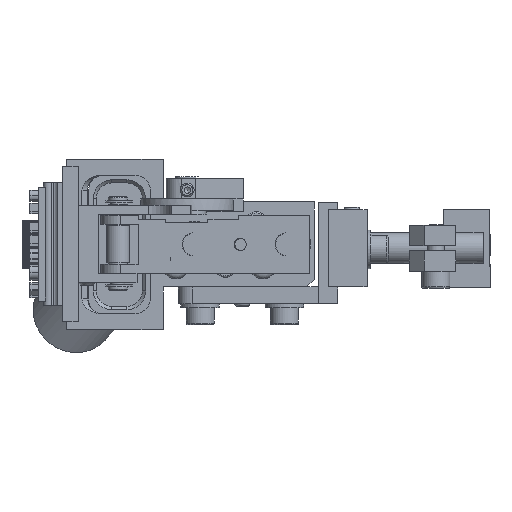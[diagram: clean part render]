
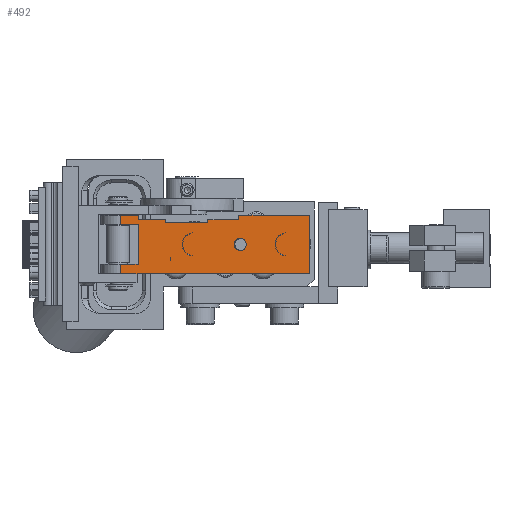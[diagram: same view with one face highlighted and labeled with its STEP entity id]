
A CAD part, front view. The second image highlights one B-rep face of the part: STEP entity #492.
In plain terms, the highlighted planar face has unit normal (0, -1, 0).
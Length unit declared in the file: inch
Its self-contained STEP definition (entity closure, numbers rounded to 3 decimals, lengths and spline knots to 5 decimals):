
#218=CARTESIAN_POINT('',(0.34758,-1.20831,-0.25));
#219=VERTEX_POINT('',#218);
#270=CARTESIAN_POINT('',(0.34758,-1.20831,-0.436));
#271=VERTEX_POINT('',#270);
#278=CARTESIAN_POINT('',(0.35943,-1.20831,-0.343));
#279=DIRECTION('',(0.0,-1.0,0.0));
#280=DIRECTION('',(-1.0,0.0,0.0));
#281=AXIS2_PLACEMENT_3D('',#278,#279,#280);
#282=CIRCLE('',#281,0.09375);
#283=EDGE_CURVE('',#219,#271,#282,.T.);
#308=CARTESIAN_POINT('',(0.54143,-1.20831,-0.579));
#309=DIRECTION('',(0.0,-1.0,0.0));
#310=DIRECTION('',(0.0,0.0,-1.0));
#311=AXIS2_PLACEMENT_3D('',#308,#309,#310);
#312=PLANE('',#311);
#313=CARTESIAN_POINT('',(-0.84357,-1.20831,-0.143));
#314=VERTEX_POINT('',#313);
#315=CARTESIAN_POINT('',(-0.84357,-1.20831,-0.106));
#316=VERTEX_POINT('',#315);
#317=CARTESIAN_POINT('',(-0.84357,-1.20831,-0.143));
#318=DIRECTION('',(0.0,0.0,1.0));
#319=VECTOR('',#318,0.037);
#320=LINE('',#317,#319);
#321=EDGE_CURVE('',#314,#316,#320,.T.);
#322=ORIENTED_EDGE('',*,*,#321,.T.);
#323=CARTESIAN_POINT('',(-0.98958,-1.20831,-0.106));
#324=VERTEX_POINT('',#323);
#325=CARTESIAN_POINT('',(-0.84357,-1.20831,-0.106));
#326=DIRECTION('',(-1.0,0.0,0.0));
#327=VECTOR('',#326,0.14601);
#328=LINE('',#325,#327);
#329=EDGE_CURVE('',#316,#324,#328,.T.);
#330=ORIENTED_EDGE('',*,*,#329,.T.);
#331=CARTESIAN_POINT('',(-0.98958,-1.20831,-0.18));
#332=VERTEX_POINT('',#331);
#333=CARTESIAN_POINT('',(-0.98958,-1.20831,-0.18));
#334=DIRECTION('',(0.0,0.0,1.0));
#335=VECTOR('',#334,0.074);
#336=LINE('',#333,#335);
#337=EDGE_CURVE('',#332,#324,#336,.T.);
#338=ORIENTED_EDGE('',*,*,#337,.F.);
#339=CARTESIAN_POINT('',(-0.84457,-1.20831,-0.18));
#340=VERTEX_POINT('',#339);
#341=CARTESIAN_POINT('',(-0.98958,-1.20831,-0.18));
#342=DIRECTION('',(1.0,0.0,0.0));
#343=VECTOR('',#342,0.14501);
#344=LINE('',#341,#343);
#345=EDGE_CURVE('',#332,#340,#344,.T.);
#346=ORIENTED_EDGE('',*,*,#345,.T.);
#347=CARTESIAN_POINT('',(-0.84457,-1.20831,-0.505));
#348=VERTEX_POINT('',#347);
#349=CARTESIAN_POINT('',(-0.84457,-1.20831,-0.18));
#350=DIRECTION('',(0.0,0.0,-1.0));
#351=VECTOR('',#350,0.325);
#352=LINE('',#349,#351);
#353=EDGE_CURVE('',#340,#348,#352,.T.);
#354=ORIENTED_EDGE('',*,*,#353,.T.);
#355=CARTESIAN_POINT('',(-0.98958,-1.20831,-0.505));
#356=VERTEX_POINT('',#355);
#357=CARTESIAN_POINT('',(-0.84457,-1.20831,-0.505));
#358=DIRECTION('',(-1.0,0.0,0.0));
#359=VECTOR('',#358,0.14501);
#360=LINE('',#357,#359);
#361=EDGE_CURVE('',#348,#356,#360,.T.);
#362=ORIENTED_EDGE('',*,*,#361,.T.);
#363=CARTESIAN_POINT('',(-0.98958,-1.20831,-0.579));
#364=VERTEX_POINT('',#363);
#365=CARTESIAN_POINT('',(-0.98958,-1.20831,-0.579));
#366=DIRECTION('',(0.0,0.0,1.0));
#367=VECTOR('',#366,0.074);
#368=LINE('',#365,#367);
#369=EDGE_CURVE('',#364,#356,#368,.T.);
#370=ORIENTED_EDGE('',*,*,#369,.F.);
#371=CARTESIAN_POINT('',(-0.85357,-1.20831,-0.579));
#372=VERTEX_POINT('',#371);
#373=CARTESIAN_POINT('',(-0.98958,-1.20831,-0.579));
#374=DIRECTION('',(1.0,0.,0.));
#375=VECTOR('',#374,0.13601);
#376=LINE('',#373,#375);
#377=EDGE_CURVE('',#364,#372,#376,.T.);
#378=ORIENTED_EDGE('',*,*,#377,.T.);
#379=CARTESIAN_POINT('',(0.54143,-1.20831,-0.579));
#380=VERTEX_POINT('',#379);
#381=CARTESIAN_POINT('',(-0.85357,-1.20831,-0.579));
#382=DIRECTION('',(1.0,0.0,0.0));
#383=VECTOR('',#382,1.395);
#384=LINE('',#381,#383);
#385=EDGE_CURVE('',#372,#380,#384,.T.);
#386=ORIENTED_EDGE('',*,*,#385,.T.);
#387=CARTESIAN_POINT('',(0.54143,-1.20831,-0.106));
#388=VERTEX_POINT('',#387);
#389=CARTESIAN_POINT('',(0.54143,-1.20831,-0.579));
#390=DIRECTION('',(0.0,0.0,1.0));
#391=VECTOR('',#390,0.473);
#392=LINE('',#389,#391);
#393=EDGE_CURVE('',#380,#388,#392,.T.);
#394=ORIENTED_EDGE('',*,*,#393,.T.);
#395=CARTESIAN_POINT('',(-0.03157,-1.20831,-0.106));
#396=VERTEX_POINT('',#395);
#397=CARTESIAN_POINT('',(0.54143,-1.20831,-0.106));
#398=DIRECTION('',(-1.0,0.0,0.0));
#399=VECTOR('',#398,0.573);
#400=LINE('',#397,#399);
#401=EDGE_CURVE('',#388,#396,#400,.T.);
#402=ORIENTED_EDGE('',*,*,#401,.T.);
#403=CARTESIAN_POINT('',(-0.03157,-1.20831,-0.14286));
#404=VERTEX_POINT('',#403);
#405=CARTESIAN_POINT('',(-0.03157,-1.20831,-0.106));
#406=DIRECTION('',(0.0,0.0,-1.0));
#407=VECTOR('',#406,0.03686);
#408=LINE('',#405,#407);
#409=EDGE_CURVE('',#396,#404,#408,.T.);
#410=ORIENTED_EDGE('',*,*,#409,.T.);
#411=CARTESIAN_POINT('',(-0.28183,-1.20831,-0.14286));
#412=VERTEX_POINT('',#411);
#413=CARTESIAN_POINT('',(-0.03157,-1.20831,-0.14286));
#414=DIRECTION('',(-1.0,0.0,0.0));
#415=VECTOR('',#414,0.25026);
#416=LINE('',#413,#415);
#417=EDGE_CURVE('',#404,#412,#416,.T.);
#418=ORIENTED_EDGE('',*,*,#417,.T.);
#419=CARTESIAN_POINT('',(-0.28183,-1.20831,-0.168));
#420=VERTEX_POINT('',#419);
#421=CARTESIAN_POINT('',(-0.28183,-1.20831,-0.14286));
#422=DIRECTION('',(0.0,0.0,-1.0));
#423=VECTOR('',#422,0.02514);
#424=LINE('',#421,#423);
#425=EDGE_CURVE('',#412,#420,#424,.T.);
#426=ORIENTED_EDGE('',*,*,#425,.T.);
#427=CARTESIAN_POINT('',(-0.62483,-1.20831,-0.168));
#428=VERTEX_POINT('',#427);
#429=CARTESIAN_POINT('',(-0.28183,-1.20831,-0.168));
#430=DIRECTION('',(-1.0,0.0,0.0));
#431=VECTOR('',#430,0.343);
#432=LINE('',#429,#431);
#433=EDGE_CURVE('',#420,#428,#432,.T.);
#434=ORIENTED_EDGE('',*,*,#433,.T.);
#435=CARTESIAN_POINT('',(-0.62483,-1.20831,-0.143));
#436=VERTEX_POINT('',#435);
#437=CARTESIAN_POINT('',(-0.62483,-1.20831,-0.168));
#438=DIRECTION('',(0.0,0.0,1.0));
#439=VECTOR('',#438,0.025);
#440=LINE('',#437,#439);
#441=EDGE_CURVE('',#428,#436,#440,.T.);
#442=ORIENTED_EDGE('',*,*,#441,.T.);
#443=CARTESIAN_POINT('',(-0.62483,-1.20831,-0.143));
#444=DIRECTION('',(-1.0,0.0,0.0));
#445=VECTOR('',#444,0.21874);
#446=LINE('',#443,#445);
#447=EDGE_CURVE('',#436,#314,#446,.T.);
#448=ORIENTED_EDGE('',*,*,#447,.T.);
#449=EDGE_LOOP('',(#322,#330,#338,#346,#354,#362,#370,#378,#386,#394,#402,#410,#418,#426,#434,#442,#448));
#450=FACE_OUTER_BOUND('',#449,.T.);
#451=CARTESIAN_POINT('',(-0.06957,-1.20831,-0.343));
#452=VERTEX_POINT('',#451);
#453=CARTESIAN_POINT('',(-0.02057,-1.20831,-0.343));
#454=DIRECTION('',(0.0,1.0,0.0));
#455=DIRECTION('',(-1.0,0.0,0.0));
#456=AXIS2_PLACEMENT_3D('',#453,#454,#455);
#457=CIRCLE('',#456,0.049);
#458=EDGE_CURVE('',#452,#452,#457,.T.);
#459=ORIENTED_EDGE('',*,*,#458,.T.);
#460=EDGE_LOOP('',(#459));
#461=FACE_BOUND('',#460,.T.);
#462=CARTESIAN_POINT('',(-0.40242,-1.20831,-0.436));
#463=VERTEX_POINT('',#462);
#464=CARTESIAN_POINT('',(-0.40242,-1.20831,-0.25));
#465=VERTEX_POINT('',#464);
#466=CARTESIAN_POINT('',(-0.39557,-1.20831,-0.343));
#467=DIRECTION('',(0.0,1.0,0.0));
#468=DIRECTION('',(-1.0,0.0,0.0));
#469=AXIS2_PLACEMENT_3D('',#466,#467,#468);
#470=CIRCLE('',#469,0.09325);
#471=EDGE_CURVE('',#463,#465,#470,.T.);
#472=ORIENTED_EDGE('',*,*,#471,.T.);
#473=CARTESIAN_POINT('',(-0.39057,-1.20831,-0.343));
#474=DIRECTION('',(0.0,-1.0,0.0));
#475=DIRECTION('',(-1.0,0.0,0.0));
#476=AXIS2_PLACEMENT_3D('',#473,#474,#475);
#477=CIRCLE('',#476,0.09375);
#478=EDGE_CURVE('',#465,#463,#477,.T.);
#479=ORIENTED_EDGE('',*,*,#478,.T.);
#480=EDGE_LOOP('',(#472,#479));
#481=FACE_BOUND('',#480,.T.);
#482=CARTESIAN_POINT('',(0.35443,-1.20831,-0.343));
#483=DIRECTION('',(0.0,1.0,0.0));
#484=DIRECTION('',(-1.0,0.0,0.0));
#485=AXIS2_PLACEMENT_3D('',#482,#483,#484);
#486=CIRCLE('',#485,0.09325);
#487=EDGE_CURVE('',#271,#219,#486,.T.);
#488=ORIENTED_EDGE('',*,*,#487,.T.);
#489=ORIENTED_EDGE('',*,*,#283,.T.);
#490=EDGE_LOOP('',(#488,#489));
#491=FACE_BOUND('',#490,.T.);
#492=ADVANCED_FACE('',(#450,#461,#481,#491),#312,.T.);
